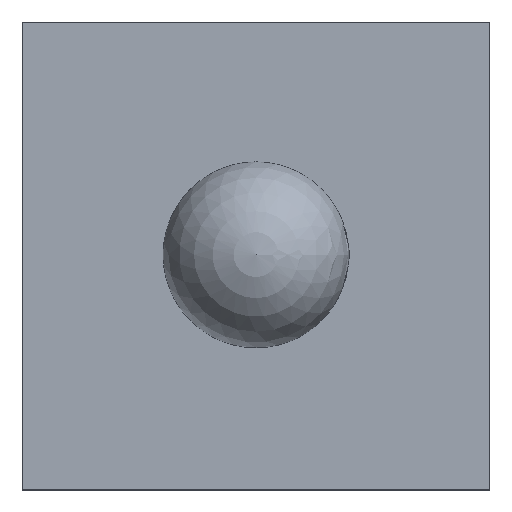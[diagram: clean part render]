
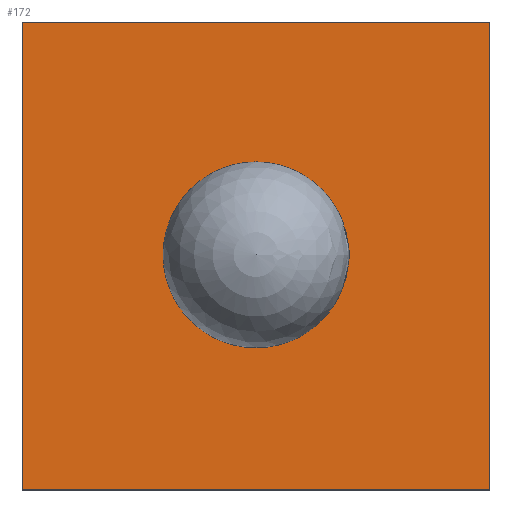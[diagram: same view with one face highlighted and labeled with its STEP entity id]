
A CAD part, top view. The second image highlights one B-rep face of the part: STEP entity #172.
In plain terms, the highlighted planar face has unit normal (0, 0, 1).
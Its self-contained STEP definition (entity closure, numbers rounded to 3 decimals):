
#81=CARTESIAN_POINT('',(-500.,-500.,0.));
#82=VERTEX_POINT('',#81);
#83=CARTESIAN_POINT('',(500.,-500.,0.));
#84=VERTEX_POINT('',#83);
#85=CARTESIAN_POINT('',(500.,500.,0.));
#86=VERTEX_POINT('',#85);
#87=CARTESIAN_POINT('',(-500.,500.,0.));
#88=VERTEX_POINT('',#87);
#109=CARTESIAN_POINT('',(-500.,-500.,0.));
#110=DIRECTION('',(1.,0.,0.));
#111=VECTOR('',#110,1000.);
#112=LINE('',#109,#111);
#113=EDGE_CURVE('',#82,#84,#112,.T.);
#114=CARTESIAN_POINT('',(500.,-500.,0.));
#115=DIRECTION('',(0.,1.,0.));
#116=VECTOR('',#115,1000.);
#117=LINE('',#114,#116);
#118=EDGE_CURVE('',#84,#86,#117,.T.);
#119=CARTESIAN_POINT('',(500.,500.,0.));
#120=DIRECTION('',(-1.,0.,0.));
#121=VECTOR('',#120,1000.);
#122=LINE('',#119,#121);
#123=EDGE_CURVE('',#86,#88,#122,.T.);
#124=CARTESIAN_POINT('',(-500.,500.,0.));
#125=DIRECTION('',(0.,-1.,0.));
#126=VECTOR('',#125,1000.);
#127=LINE('',#124,#126);
#128=EDGE_CURVE('',#88,#82,#127,.T.);
#161=CARTESIAN_POINT('',(-500.,-500.,0.));
#162=DIRECTION('',(0.,0.,1.));
#163=DIRECTION('',(1.,0.,0.));
#164=AXIS2_PLACEMENT_3D('',#161,#162,#163);
#165=PLANE('',#164);
#166=ORIENTED_EDGE('',*,*,#113,.T.);
#167=ORIENTED_EDGE('',*,*,#118,.T.);
#168=ORIENTED_EDGE('',*,*,#123,.T.);
#169=ORIENTED_EDGE('',*,*,#128,.T.);
#170=EDGE_LOOP('',(#166,#167,#168,#169));
#171=FACE_OUTER_BOUND('',#170,.T.);
#172=ADVANCED_FACE('top',(#171),#165,.T.);
